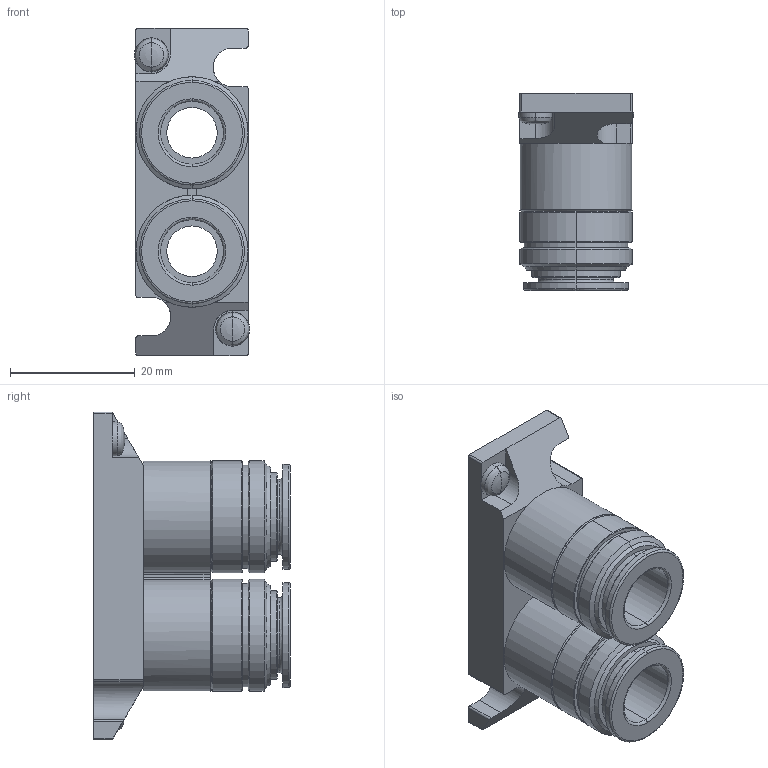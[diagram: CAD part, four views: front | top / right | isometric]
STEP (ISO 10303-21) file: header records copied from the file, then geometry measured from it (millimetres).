
FILE_DESCRIPTION( (''), '2;1');
FILE_NAME ('CVICAD02.3396.F15-Port-PJ_21508.stp','2021-07-12T19:12:53',(''),(''),'spGate 12.6.6','','');
FILE_SCHEMA (('AUTOMOTIVE_DESIGN'));
Length unit declared in the file: millimetre
Bounding box: 18.48 x 31.6 x 52.6 mm (x, y, z)
Volume: 13593.7 mm3; surface area: 7480.5 mm2
Topology: 1 solids, 1 shells, 146 faces, 342 edges, 206 vertices
Faces by surface type: cylinder 50, bspline 48, plane 44, sphere 4
Entity records: 7359 total; most frequent: CARTESIAN_POINT 1492, ORIENTED_EDGE 676, DIRECTION 606, COLOUR_RGB 485, PRESENTATION_STYLE_ASSIGNMENT 485, STYLED_ITEM 485, EDGE_CURVE 338, DRAUGHTING_PRE_DEFINED_CURVE_FONT 338
